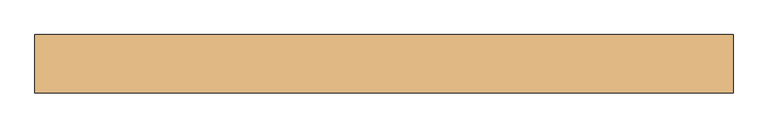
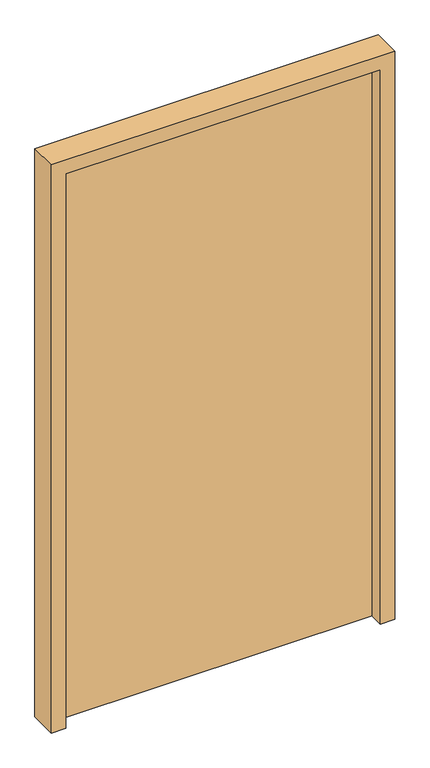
"""IFC4 building model written with IfcOpenShell, lengths in millimetres: door geometry, (Dr)_ДУ(распашная)_1Ст_Прямоугольная : (Нр)_ДГ(1.2х2.1(h))."""

from ifc_helpers import new_model, si_unit, frame, origin, origin_with_axes, place, context, project, spatial, polyline, outline, extrude, source, transform, mapped, element, save


def door_0f211a22(model_context):
    return source(origin(), model_context, "Body", "SweptSolid", [
        extrude(outline(polyline([(-550.0, 60.0), (550.0, 60.0), (550.0, 10.0), (-550.0, 10.0), (-550.0, 60.0)])), origin_with_axes(), (0.0, 0.0, 1.0), 2050.0),
        extrude(outline(polyline([(0.0, -600.0), (0.0, -550.0), (2050.0, -550.0), (2050.0, 550.0), (0.0, 550.0), (0.0, 600.0), (2100.0, 600.0), (2100.0, -600.0), (0.0, -600.0)])), frame((0.0, -40.0, 0.0), z_axis=(0.0, 1.0, 0.0), x_axis=(0.0, 0.0, 1.0)), (0.0, 0.0, 1.0), 100.0),
    ])


if __name__ == "__main__":
    model = new_model("IFC4")
    model_context = context("Model", 3, world=origin())
    ifc_project = project(units=[si_unit("LENGTHUNIT", "METRE", prefix="MILLI")], contexts=[model_context])
    site = spatial("IfcSite", under=ifc_project)
    building = spatial("IfcBuilding", under=site)
    placement = place(None, origin())
    door_shape = door_0f211a22(model_context)
    element("IfcDoor", 1, ObjectType="(Dr)_ДУ(распашная)_1Ст_Прямоугольная : (Нр)_ДГ(1.2х2.1(h))", at=placement, inside=building, context=model_context, shape_type="MappedRepresentation", body=[
        mapped(door_shape, transform((0.0, 0.0, 0.0), x_axis=(1.0, 0.0, 0.0), y_axis=(0.0, 1.0, 0.0), z_axis=(0.0, 0.0, 1.0))),
    ])
    save(model, "model.ifc")
